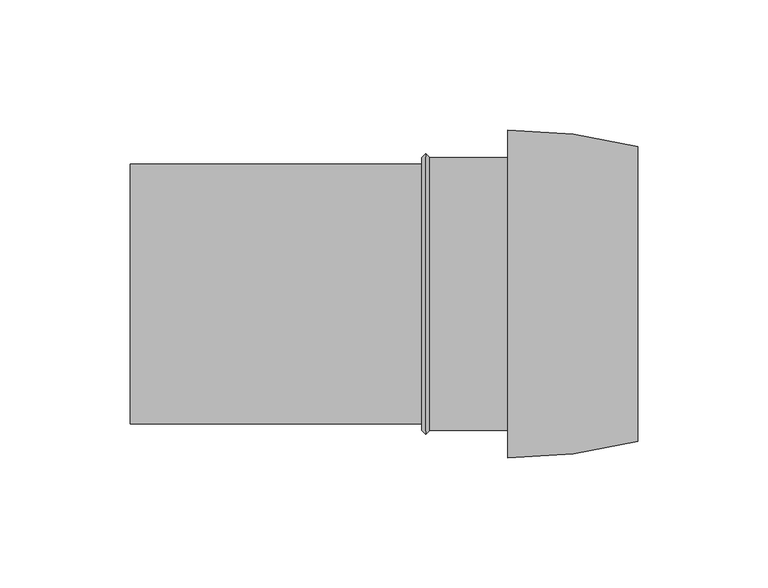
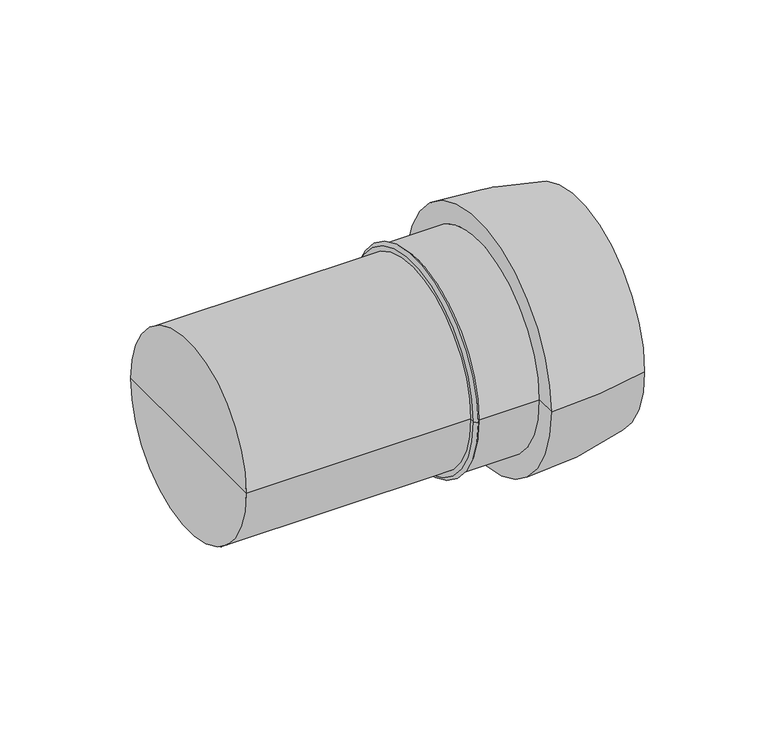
"""IFC4 building model written with IfcOpenShell, lengths in millimetres: duct segment geometry, NLRS_57_AIR_DUF_Easysafe verl pijp PP_M&G : Easysafe verlengpijp."""

from ifc_helpers import new_model, si_unit, point, frame, origin, place, context, project, spatial, polyline, circle_curve, ellipse_curve, trimmed, source, transform, mapped, element, save
from ifc_brep_helpers import plane_surface, cylinder_surface, revolved_surface, advanced_brep


def duct_segment_c58fb733(model_context):
    return source(origin(), model_context, "Body", "AdvancedBrep", [
        advanced_brep(
        [(0.0, 0.0, 0.0), (0.0, 50.0, 0.0), (0.0, -50.0, 0.0), (145.0, -63.0, 0.0), (145.0, 63.0, 0.0), (195.0, 56.6491673, 0.0), (195.0, -56.6491673, 0.0), (145.0, -52.5, 0.0), (145.0, 52.5, 0.0), (115.0, -52.5, 0.0), (115.0, 52.5, 0.0), (112.0, 50.0, 0.0), (112.0, -50.0, 0.0), (195.0, 50.0, 0.0), (195.0, -50.0, 0.0), (113.5, -54.0, 0.0), (113.5, 54.0, 0.0), (112.0, -52.5, 0.0), (112.0, 52.5, 0.0), (145.0, -50.0, 0.0), (145.0, 50.0, 0.0), (145.0, 0.0, 0.0)],
        [
            (0, 1),
            (1, 2, circle_curve(frame((0.0, 0.0, 0.0), z_axis=(-1.0, 0.0, 0.0), x_axis=(0.0, 1.0, 0.0)), 50.0)),
            (2, 0),
            (2, 1, circle_curve(frame((0.0, 0.0, 0.0), z_axis=(-1.0, 0.0, 0.0), x_axis=(0.0, 1.0, 0.0)), 50.0)),
            (3, 4, circle_curve(frame((145.0, 0.0, 0.0), z_axis=(1.0, 0.0, 0.0), x_axis=(0.0, 1.0, 0.0)), 63.0)),
            (4, 5, circle_curve(frame((145.0, -137.0, 0.0), z_axis=(0.0, 0.0, -1.0), x_axis=(1.0, 0.0, 0.0)), 200.0)),
            (5, 6, circle_curve(frame((195.0, 0.0, 0.0), z_axis=(-1.0, 0.0, 0.0), x_axis=(0.0, 1.0, 0.0)), 56.6491673)),
            (6, 3, circle_curve(frame((145.0, 137.0, 0.0), z_axis=(0.0, 0.0, -1.0), x_axis=(1.0, 0.0, 0.0)), 200.0)),
            (4, 3, circle_curve(frame((145.0, 0.0, 0.0), z_axis=(1.0, 0.0, 0.0), x_axis=(0.0, 1.0, 0.0)), 63.0)),
            (6, 5, circle_curve(frame((195.0, 0.0, 0.0), z_axis=(-1.0, 0.0, 0.0), x_axis=(0.0, 1.0, 0.0)), 56.6491673)),
            (7, 8, circle_curve(frame((145.0, 0.0, 0.0), z_axis=(1.0, 0.0, 0.0), x_axis=(0.0, 1.0, 0.0)), 52.5)),
            (8, 4),
            (3, 7),
            (8, 7, circle_curve(frame((145.0, 0.0, 0.0), z_axis=(1.0, 0.0, 0.0), x_axis=(0.0, 1.0, 0.0)), 52.5)),
            (9, 10, circle_curve(frame((115.0, 0.0, 0.0), z_axis=(1.0, 0.0, 0.0), x_axis=(0.0, 1.0, 0.0)), 52.5)),
            (10, 8),
            (7, 9),
            (10, 9, circle_curve(frame((115.0, 0.0, 0.0), z_axis=(1.0, 0.0, 0.0), x_axis=(0.0, 1.0, 0.0)), 52.5)),
            (1, 11),
            (11, 12, circle_curve(frame((112.0, 0.0, 0.0), z_axis=(-1.0, 0.0, 0.0), x_axis=(0.0, 1.0, 0.0)), 50.0)),
            (12, 2),
            (12, 11, circle_curve(frame((112.0, 0.0, 0.0), z_axis=(-1.0, 0.0, 0.0), x_axis=(0.0, 1.0, 0.0)), 50.0)),
            (5, 13),
            (13, 14, circle_curve(frame((195.0, 0.0, 0.0), z_axis=(-1.0, 0.0, 0.0), x_axis=(0.0, 1.0, 0.0)), 50.0)),
            (14, 6),
            (14, 13, circle_curve(frame((195.0, 0.0, 0.0), z_axis=(-1.0, 0.0, 0.0), x_axis=(0.0, 1.0, 0.0)), 50.0)),
            (15, 16, circle_curve(frame((113.5, 0.0, 0.0), z_axis=(1.0, 0.0, 0.0), x_axis=(0.0, 1.0, 0.0)), 54.0)),
            (16, 10),
            (9, 15),
            (16, 15, circle_curve(frame((113.5, 0.0, 0.0), z_axis=(1.0, 0.0, 0.0), x_axis=(0.0, 1.0, 0.0)), 54.0)),
            (17, 18, circle_curve(frame((112.0, 0.0, 0.0), z_axis=(1.0, 0.0, 0.0), x_axis=(0.0, 1.0, 0.0)), 52.5)),
            (18, 16),
            (15, 17),
            (18, 17, circle_curve(frame((112.0, 0.0, 0.0), z_axis=(1.0, 0.0, 0.0), x_axis=(0.0, 1.0, 0.0)), 52.5)),
            (11, 18),
            (17, 12),
            (19, 20, circle_curve(frame((145.0, 0.0, 0.0), z_axis=(1.0, 0.0, 0.0), x_axis=(0.0, 1.0, 0.0)), 50.0)),
            (20, 21),
            (21, 19),
            (20, 19, circle_curve(frame((145.0, 0.0, 0.0), z_axis=(1.0, 0.0, 0.0), x_axis=(0.0, 1.0, 0.0)), 50.0)),
            (13, 20),
            (19, 14),
        ],
        [
            plane_surface(frame((0.0, 0.0, 0.0), z_axis=(-1.0, 0.0, 0.0), x_axis=(0.0, 1.0, 0.0))),
            revolved_surface(trimmed(ellipse_curve(frame((145.0, -137.0, 0.0), z_axis=(0.0, 0.0, 1.0), x_axis=(1.0, 0.0, 0.0)), 200.0, 200.0), [point((195.0, 56.6491673, 0.0))], [point((145.0, 63.0, 0.0))], True, "CARTESIAN"), (-500.0, 0.0, 0.0), (-1.0, 0.0, 0.0)),
            plane_surface(frame((145.0, 0.0, 0.0), z_axis=(-1.0, 0.0, 0.0), x_axis=(0.0, 1.0, 0.0))),
            cylinder_surface(frame((-500.0, 0.0, 0.0), z_axis=(-1.0, 0.0, 0.0), x_axis=(0.0, 1.0, 0.0)), 52.5),
            cylinder_surface(frame((-500.0, 0.0, 0.0), z_axis=(-1.0, 0.0, 0.0), x_axis=(0.0, 1.0, 0.0)), 50.0),
            plane_surface(frame((195.0, 0.0, 0.0), z_axis=(1.0, 0.0, 0.0), x_axis=(0.0, 1.0, 0.0))),
            revolved_surface(polyline([(115.0, 52.5, 0.0), (113.5, 54.0, 0.0)]), (-500.0, 0.0, 0.0), (-1.0, 0.0, 0.0)),
            revolved_surface(polyline([(113.5, 54.0, 0.0), (112.0, 52.5, 0.0)]), (-500.0, 0.0, 0.0), (-1.0, 0.0, 0.0)),
            plane_surface(frame((112.0, 0.0, 0.0), z_axis=(-1.0, 0.0, 0.0), x_axis=(0.0, 1.0, 0.0))),
            plane_surface(frame((145.0, 0.0, 0.0), z_axis=(1.0, 0.0, 0.0), x_axis=(0.0, 1.0, 0.0))),
            revolved_surface(polyline([(145.0, 50.0, 0.0), (195.0, 50.0, 0.0)]), (-500.0, 0.0, 0.0), (-1.0, 0.0, 0.0)),
        ],
        [
            (0, [[1, 2, 3]]),
            (0, [[-3, 4, -1]]),
            (1, [[5, 6, 7, 8]]),
            (1, [[9, -8, 10, -6]]),
            (2, [[11, 12, -5, 13]]),
            (2, [[14, -13, -9, -12]]),
            (3, [[15, 16, -11, 17]]),
            (3, [[18, -17, -14, -16]]),
            (4, [[-2, 19, 20, 21]]),
            (4, [[-4, -21, 22, -19]]),
            (5, [[-7, 23, 24, 25]]),
            (5, [[-10, -25, 26, -23]]),
            (6, [[27, 28, -15, 29]]),
            (6, [[30, -29, -18, -28]]),
            (7, [[31, 32, -27, 33]]),
            (7, [[34, -33, -30, -32]]),
            (8, [[-20, 35, -31, 36]]),
            (8, [[-22, -36, -34, -35]]),
            (9, [[37, 38, 39]]),
            (9, [[40, -39, -38]]),
            (10, [[-24, 41, -37, 42]]),
            (10, [[-26, -42, -40, -41]]),
        ],
    ),
    ])


if __name__ == "__main__":
    model = new_model("IFC4")
    model_context = context("Model", 3, world=origin())
    ifc_project = project(units=[si_unit("LENGTHUNIT", "METRE", prefix="MILLI")], contexts=[model_context])
    site = spatial("IfcSite", under=ifc_project)
    building = spatial("IfcBuilding", under=site)
    placement = place(None, origin())
    duct_segment_shape = duct_segment_c58fb733(model_context)
    element("IfcDuctSegment", 1, ObjectType="NLRS_57_AIR_DUF_Easysafe verl pijp PP_M&G : Easysafe verlengpijp", at=placement, inside=building, context=model_context, shape_type="MappedRepresentation", body=[
        mapped(duct_segment_shape, transform((0.0, 0.0, 0.0), x_axis=(1.0, 0.0, 0.0), y_axis=(0.0, 1.0, 0.0), z_axis=(0.0, 0.0, 1.0))),
    ])
    save(model, "model.ifc")
